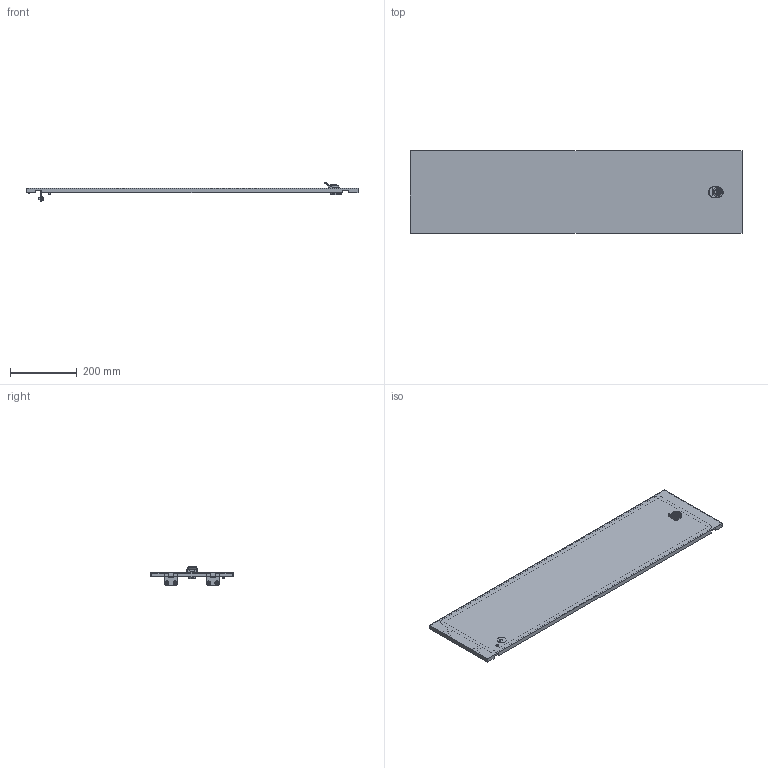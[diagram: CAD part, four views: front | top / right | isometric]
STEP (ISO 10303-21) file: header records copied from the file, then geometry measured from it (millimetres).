
FILE_DESCRIPTION (( 'STEP AP214' ), '1' );
FILE_NAME ('FO-00-ESD-025-100 Äâåðü ñåêöèîííàÿ âíåøíÿÿ 250x1000 ìì.STEP', '2025-09-03T12:14:32', ( '' ), ( '' ), 'SwSTEP 2.0', 'SolidWorks 2023', '' );
FILE_SCHEMA (( 'AUTOMOTIVE_DESIGN' ));
Length unit declared in the file: millimetre
Products named in the file (3): Дверь секционная внешняя 250х1000 мм; FO-00-ESD-025-100 Дверь секционная внешняя 250x1000 мм; Петля
Assembly tree (3 placements, depth 2):
  FO-00-ESD-025-100 Дверь секционная внешняя 250x1000 мм
    Дверь секционная внешняя 250х1000 мм
    Петля  x2
Bounding box: 995 x 246 x 57.25 mm (x, y, z)
Volume: 659208.2 mm3; surface area: 579951.5 mm2
Topology: 3 solids, 9 shells, 511 faces, 1309 edges, 848 vertices
Faces by surface type: plane 243, cylinder 200, torus 29, cone 24, bspline 15
Entity records: 13699 total; most frequent: CARTESIAN_POINT 3462, DIRECTION 2146, ORIENTED_EDGE 2108, EDGE_CURVE 1054, AXIS2_PLACEMENT_3D 748, VERTEX_POINT 686, VECTOR 650, LINE 650
